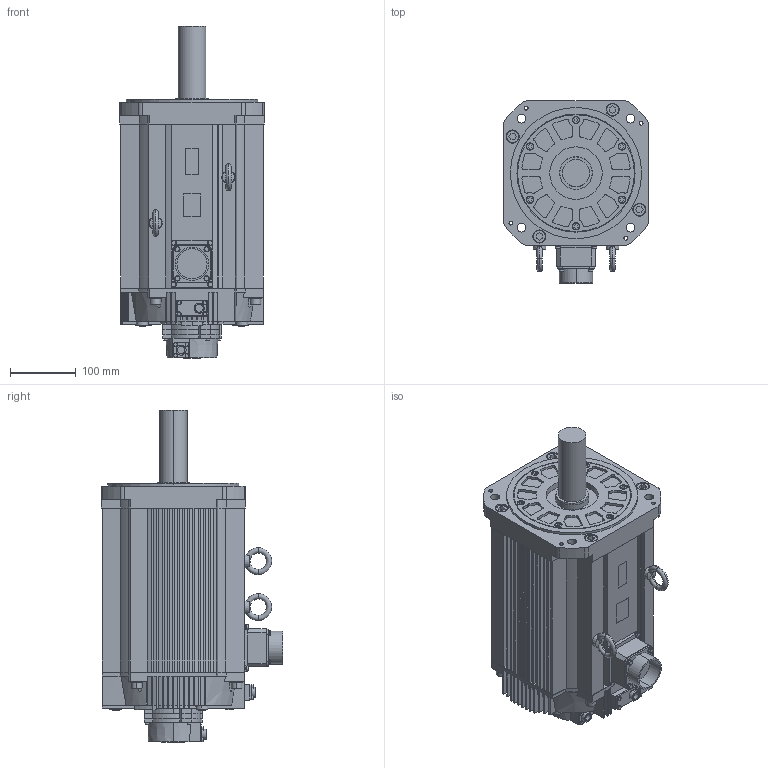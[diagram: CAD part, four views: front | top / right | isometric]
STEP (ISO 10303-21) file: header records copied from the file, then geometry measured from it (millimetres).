
FILE_DESCRIPTION (( 'STEP AP203' ), '1' );
FILE_NAME ('sgm7g_1aa6a2c.STEP', '2016-11-12T04:51:26', ( '匠エンジニアリング山之内' ), ( 'TAKUMI-Engniaring' ), 'SwSTEP 2.0', 'SolidWorks 2006303', '' );
FILE_SCHEMA (( 'CONFIG_CONTROL_DESIGN' ));
Length unit declared in the file: millimetre
Products named in the file (3): sgm7g_1aa6a2c_base; sgm7g_1aa6a2c_eyebolt; sgm7g_1aa6a2c
Assembly tree (3 placements, depth 2):
  sgm7g_1aa6a2c
    sgm7g_1aa6a2c_eyebolt  x2
    sgm7g_1aa6a2c_base
Bounding box: 220 x 277.08 x 506.1 mm (x, y, z)
Volume: 13682142.6 mm3; surface area: 696035 mm2
Topology: 3 solids, 3 shells, 1427 faces, 3712 edges, 2434 vertices
Faces by surface type: plane 854, cylinder 504, cone 59, torus 8, bspline 2
Entity records: 44138 total; most frequent: CARTESIAN_POINT 8136, DIRECTION 7540, ORIENTED_EDGE 7370, EDGE_CURVE 3685, AXIS2_PLACEMENT_3D 2545, VECTOR 2450, LINE 2450, VERTEX_POINT 2418
